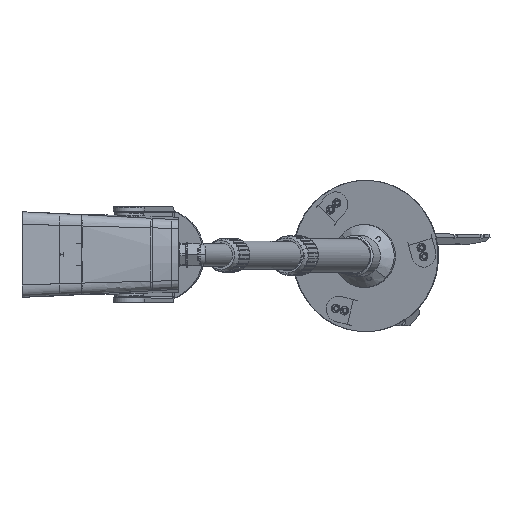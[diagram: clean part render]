
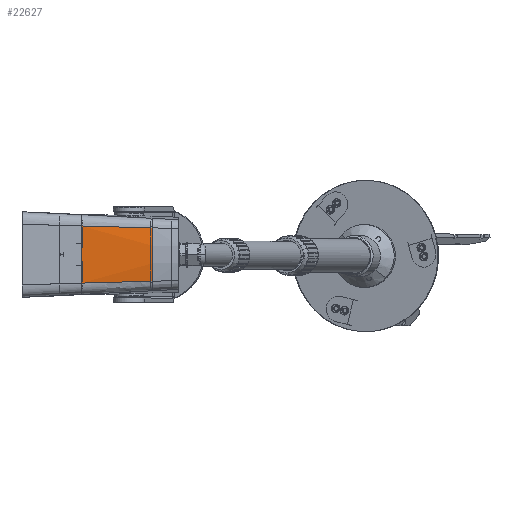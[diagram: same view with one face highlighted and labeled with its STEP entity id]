
A CAD part, top view. The second image highlights one B-rep face of the part: STEP entity #22627.
In plain terms, the highlighted free-form (B-spline) face has degree [3, 3] with [6, 4] control points.
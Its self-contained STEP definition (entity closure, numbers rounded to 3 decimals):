
#13216=CARTESIAN_POINT('',(77.5,-22.861,
31.106));
#13218=CARTESIAN_POINT('',(77.5,-22.861,
31.106));
#13219=CARTESIAN_POINT('',(77.5,-19.076,
31.721));
#13220=CARTESIAN_POINT('',(77.5,-11.484,
32.647));
#13221=CARTESIAN_POINT('',(77.5,0.,
33.111));
#13222=CARTESIAN_POINT('',(77.5,11.484,32.647));
#13223=CARTESIAN_POINT('',(77.5,19.075,31.721));
#13224=CARTESIAN_POINT('',(77.5,22.86,31.106));
#13369=DIRECTION('',(-0.998,0.027,0.051));
#13370=VECTOR('',#13369,60.601);
#13371=CARTESIAN_POINT('',(77.5,22.86,31.106));
#13372=LINE('',#13371,#13370);
#13373=DIRECTION('',(-0.998,-0.027,0.051));
#13374=VECTOR('',#13373,60.601);
#13375=CARTESIAN_POINT('',(77.5,-22.861,
31.106));
#13376=LINE('',#13375,#13374);
#13435=CARTESIAN_POINT('',(17.,24.499,34.188));
#13436=CARTESIAN_POINT('',(17.,19.056,34.35));
#13437=CARTESIAN_POINT('',(17.,8.169,34.566));
#13438=CARTESIAN_POINT('',(17.,-8.169,
34.566));
#13439=CARTESIAN_POINT('',(17.,-19.057,
34.35));
#13440=CARTESIAN_POINT('',(17.,-24.5,
34.188));
#20411=VERTEX_POINT('',#13216);
#20412=VERTEX_POINT('',#13224);
#20443=CARTESIAN_POINT('',(17.,24.499,34.188));
#20444=VERTEX_POINT('',#20443);
#20445=CARTESIAN_POINT('',(17.,-24.5,
34.188));
#20446=VERTEX_POINT('',#20445);
#22594=CARTESIAN_POINT('',(15.79,-25.514,
34.223));
#22595=CARTESIAN_POINT('',(36.763,-24.92,
33.113));
#22596=CARTESIAN_POINT('',(57.737,-24.327,
32.003));
#22597=CARTESIAN_POINT('',(78.71,-23.733,
30.893));
#22598=CARTESIAN_POINT('',(15.79,-25.187,
34.232));
#22599=CARTESIAN_POINT('',(36.763,-24.602,
33.136));
#22600=CARTESIAN_POINT('',(57.737,-24.017,
32.04));
#22601=CARTESIAN_POINT('',(78.71,-23.432,
30.944));
#22602=CARTESIAN_POINT('',(15.79,-8.509,
34.696));
#22603=CARTESIAN_POINT('',(36.763,-8.358,
34.31));
#22604=CARTESIAN_POINT('',(57.737,-8.207,
33.924));
#22605=CARTESIAN_POINT('',(78.71,-8.056,
33.538));
#22606=CARTESIAN_POINT('',(15.79,8.509,34.696));
#22607=CARTESIAN_POINT('',(36.763,8.358,34.31));
#22608=CARTESIAN_POINT('',(57.737,8.207,33.924));
#22609=CARTESIAN_POINT('',(78.71,8.056,33.538));
#22610=CARTESIAN_POINT('',(15.79,25.187,34.232));
#22611=CARTESIAN_POINT('',(36.763,24.602,33.136));
#22612=CARTESIAN_POINT('',(57.737,24.017,32.04));
#22613=CARTESIAN_POINT('',(78.71,23.432,30.944));
#22614=CARTESIAN_POINT('',(15.79,25.514,34.223));
#22615=CARTESIAN_POINT('',(36.763,24.92,33.113));
#22616=CARTESIAN_POINT('',(57.737,24.327,32.003));
#22617=CARTESIAN_POINT('',(78.71,23.733,30.892));
#22618=B_SPLINE_SURFACE_WITH_KNOTS('',3,3,((#22594,#22595,#22596,#22597),
(#22598,#22599,#22600,#22601),(#22602,#22603,#22604,#22605),(#22606,#22607,
#22608,#22609),(#22610,#22611,#22612,#22613),(#22614,#22615,#22616,#22617)),
.UNSPECIFIED.,.F.,.F.,.F.,(4,1,1,4),(4,4),(-0.02,0.,1.,
1.02),(0.,1.),.UNSPECIFIED.);
#22619=ORIENTED_EDGE('',*,*,#22272,.F.);
#22621=ORIENTED_EDGE('',*,*,#22620,.T.);
#22623=ORIENTED_EDGE('',*,*,#22622,.F.);
#22624=ORIENTED_EDGE('',*,*,#22586,.F.);
#22625=EDGE_LOOP('',(#22619,#22621,#22623,#22624));
#22626=FACE_OUTER_BOUND('',#22625,.F.);
#22627=ADVANCED_FACE('',(#22626),#22618,.F.);
#13225=B_SPLINE_CURVE_WITH_KNOTS('',3,(#13218,#13219,#13220,#13221,#13222,
#13223,#13224),.UNSPECIFIED.,.F.,.F.,(4,1,1,1,4),(0.,0.25,0.5,0.75,
1.),.UNSPECIFIED.);
#13441=B_SPLINE_CURVE_WITH_KNOTS('',3,(#13435,#13436,#13437,#13438,#13439,
#13440),.UNSPECIFIED.,.F.,.F.,(4,1,1,4),(0.,0.333,
0.667,1.),.UNSPECIFIED.);
#22272=EDGE_CURVE('',#20411,#20412,#13225,.T.);
#22586=EDGE_CURVE('',#20412,#20444,#13372,.T.);
#22620=EDGE_CURVE('',#20411,#20446,#13376,.T.);
#22622=EDGE_CURVE('',#20444,#20446,#13441,.T.);
